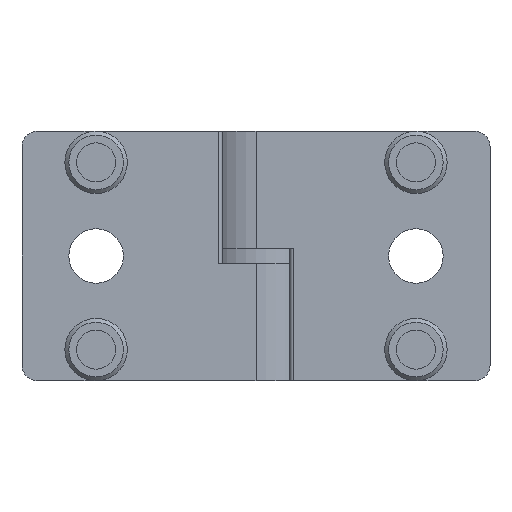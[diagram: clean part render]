
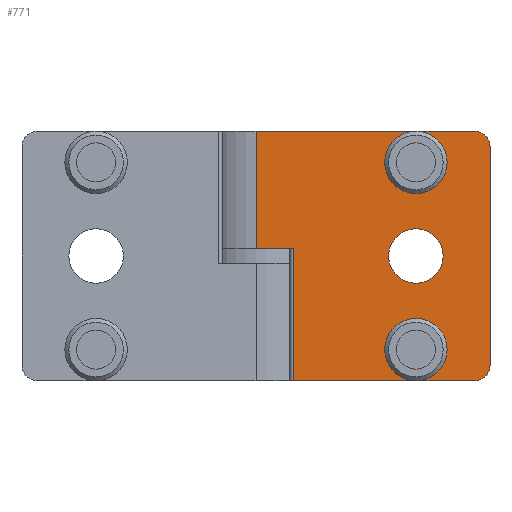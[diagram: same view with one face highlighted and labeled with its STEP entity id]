
A CAD part, front view. The second image highlights one B-rep face of the part: STEP entity #771.
In plain terms, the highlighted planar face has unit normal (0, -1, 0).
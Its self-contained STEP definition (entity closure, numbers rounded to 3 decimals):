
#116=CARTESIAN_POINT('',(20.5,-7.5,-32.0));
#117=VERTEX_POINT('',#116);
#118=CARTESIAN_POINT('',(20.5,-7.5,-28.));
#119=DIRECTION('',(0.0,1.0,0.0));
#120=DIRECTION('',(-1.0,0.0,0.0));
#121=AXIS2_PLACEMENT_3D('',#118,#119,#120);
#122=CIRCLE('',#121,4.0);
#123=EDGE_CURVE('',#117,#117,#122,.T.);
#184=CARTESIAN_POINT('',(20.5,-7.5,0.0));
#185=VERTEX_POINT('',#184);
#186=CARTESIAN_POINT('',(20.5,-7.5,-4.));
#187=DIRECTION('',(0.0,1.0,0.0));
#188=DIRECTION('',(-1.0,0.0,0.0));
#189=AXIS2_PLACEMENT_3D('',#186,#187,#188);
#190=CIRCLE('',#189,4.0);
#191=EDGE_CURVE('',#185,#185,#190,.T.);
#226=CARTESIAN_POINT('',(4.822,-7.5,-32.0));
#227=VERTEX_POINT('',#226);
#235=CARTESIAN_POINT('',(4.822,-7.5,-15.0));
#236=VERTEX_POINT('',#235);
#237=CARTESIAN_POINT('',(4.822,-7.5,-32.0));
#238=DIRECTION('',(0.0,0.0,1.0));
#239=VECTOR('',#238,17.0);
#240=LINE('',#237,#239);
#241=EDGE_CURVE('',#227,#236,#240,.T.);
#616=CARTESIAN_POINT('',(28.0,-7.5,0.0));
#617=VERTEX_POINT('',#616);
#618=CARTESIAN_POINT('',(30.0,-7.5,-2.0));
#619=VERTEX_POINT('',#618);
#620=CARTESIAN_POINT('',(28.0,-7.5,-2.0));
#621=DIRECTION('',(0.0,1.,0.0));
#622=DIRECTION('',(0.707,0.0,0.707));
#623=AXIS2_PLACEMENT_3D('',#620,#621,#622);
#624=CIRCLE('',#623,2.0);
#625=EDGE_CURVE('',#617,#619,#624,.T.);
#681=CARTESIAN_POINT('',(30.0,-7.5,-30.0));
#682=VERTEX_POINT('',#681);
#683=CARTESIAN_POINT('',(30.0,-7.5,-2.0));
#684=DIRECTION('',(0.0,0.0,-1.0));
#685=VECTOR('',#684,28.0);
#686=LINE('',#683,#685);
#687=EDGE_CURVE('',#619,#682,#686,.T.);
#699=CARTESIAN_POINT('',(0.,-7.5,0.0));
#700=DIRECTION('',(0.0,-1.0,0.0));
#701=DIRECTION('',(0.0,0.0,-1.0));
#702=AXIS2_PLACEMENT_3D('',#699,#700,#701);
#703=PLANE('',#702);
#704=ORIENTED_EDGE('',*,*,#241,.F.);
#705=CARTESIAN_POINT('',(4.822,-7.5,-32.0));
#706=DIRECTION('',(1.0,0.0,0.0));
#707=VECTOR('',#706,15.678);
#708=LINE('',#705,#707);
#709=EDGE_CURVE('',#227,#117,#708,.T.);
#710=ORIENTED_EDGE('',*,*,#709,.T.);
#711=ORIENTED_EDGE('',*,*,#123,.T.);
#712=CARTESIAN_POINT('',(28.0,-7.5,-32.0));
#713=VERTEX_POINT('',#712);
#714=CARTESIAN_POINT('',(20.5,-7.5,-32.0));
#715=DIRECTION('',(1.0,0.0,0.0));
#716=VECTOR('',#715,7.5);
#717=LINE('',#714,#716);
#718=EDGE_CURVE('',#117,#713,#717,.T.);
#719=ORIENTED_EDGE('',*,*,#718,.T.);
#720=CARTESIAN_POINT('',(28.0,-7.5,-30.0));
#721=DIRECTION('',(0.0,1.,0.0));
#722=DIRECTION('',(0.707,0.0,-0.707));
#723=AXIS2_PLACEMENT_3D('',#720,#721,#722);
#724=CIRCLE('',#723,2.);
#725=EDGE_CURVE('',#682,#713,#724,.T.);
#726=ORIENTED_EDGE('',*,*,#725,.F.);
#727=ORIENTED_EDGE('',*,*,#687,.F.);
#728=ORIENTED_EDGE('',*,*,#625,.F.);
#729=CARTESIAN_POINT('',(20.5,-7.5,0.0));
#730=DIRECTION('',(1.0,0.0,0.0));
#731=VECTOR('',#730,7.5);
#732=LINE('',#729,#731);
#733=EDGE_CURVE('',#185,#617,#732,.T.);
#734=ORIENTED_EDGE('',*,*,#733,.F.);
#735=ORIENTED_EDGE('',*,*,#191,.T.);
#736=CARTESIAN_POINT('',(0.,-7.5,0.0));
#737=VERTEX_POINT('',#736);
#738=CARTESIAN_POINT('',(0.,-7.5,0.0));
#739=DIRECTION('',(1.0,0.0,0.0));
#740=VECTOR('',#739,20.5);
#741=LINE('',#738,#740);
#742=EDGE_CURVE('',#737,#185,#741,.T.);
#743=ORIENTED_EDGE('',*,*,#742,.F.);
#744=CARTESIAN_POINT('',(0.,-7.5,-15.0));
#745=VERTEX_POINT('',#744);
#746=CARTESIAN_POINT('',(0.,-7.5,0.0));
#747=DIRECTION('',(0.0,0.0,-1.0));
#748=VECTOR('',#747,15.0);
#749=LINE('',#746,#748);
#750=EDGE_CURVE('',#737,#745,#749,.T.);
#751=ORIENTED_EDGE('',*,*,#750,.T.);
#752=CARTESIAN_POINT('',(4.822,-7.5,-15.0));
#753=DIRECTION('',(-1.0,0.0,0.0));
#754=VECTOR('',#753,4.822);
#755=LINE('',#752,#754);
#756=EDGE_CURVE('',#236,#745,#755,.T.);
#757=ORIENTED_EDGE('',*,*,#756,.F.);
#758=EDGE_LOOP('',(#704,#710,#711,#719,#726,#727,#728,#734,#735,#743,#751,#757));
#759=FACE_OUTER_BOUND('',#758,.T.);
#760=CARTESIAN_POINT('',(17.,-7.5,-16.0));
#761=VERTEX_POINT('',#760);
#762=CARTESIAN_POINT('',(20.5,-7.5,-16.0));
#763=DIRECTION('',(0.0,1.0,0.0));
#764=DIRECTION('',(1.0,0.0,0.0));
#765=AXIS2_PLACEMENT_3D('',#762,#763,#764);
#766=CIRCLE('',#765,3.5);
#767=EDGE_CURVE('',#761,#761,#766,.T.);
#768=ORIENTED_EDGE('',*,*,#767,.T.);
#769=EDGE_LOOP('',(#768));
#770=FACE_BOUND('',#769,.T.);
#771=ADVANCED_FACE('',(#759,#770),#703,.T.);
